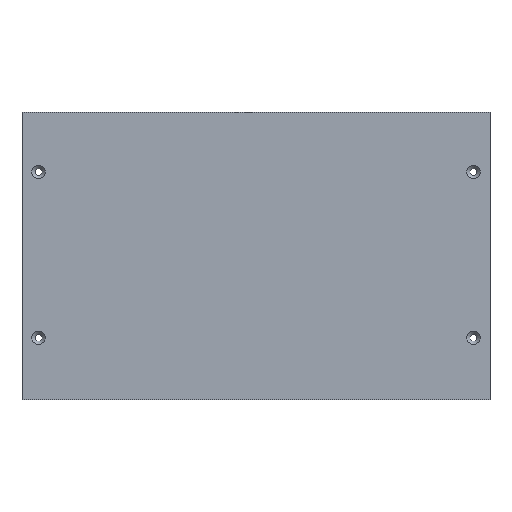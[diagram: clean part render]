
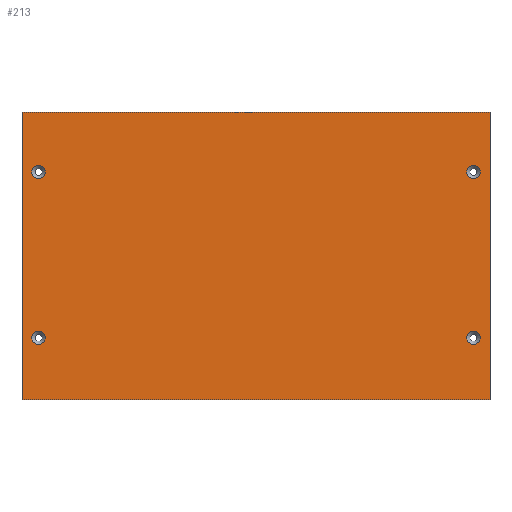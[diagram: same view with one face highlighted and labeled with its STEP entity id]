
A CAD part, top view. The second image highlights one B-rep face of the part: STEP entity #213.
In plain terms, the highlighted planar face has unit normal (0, 0, 1).
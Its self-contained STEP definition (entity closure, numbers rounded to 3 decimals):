
#24 = VERTEX_POINT('',#25);
#25 = CARTESIAN_POINT('',(0.,0.,3.));
#32 = PLANE('',#33);
#33 = AXIS2_PLACEMENT_3D('',#34,#35,#36);
#34 = CARTESIAN_POINT('',(0.,0.,0.));
#35 = DIRECTION('',(1.,0.,0.));
#36 = DIRECTION('',(0.,0.,1.));
#44 = PLANE('',#45);
#45 = AXIS2_PLACEMENT_3D('',#46,#47,#48);
#46 = CARTESIAN_POINT('',(0.,0.,0.));
#47 = DIRECTION('',(0.,1.,0.));
#48 = DIRECTION('',(0.,0.,1.));
#85 = VERTEX_POINT('',#86);
#86 = CARTESIAN_POINT('',(0.,139.,3.));
#100 = PLANE('',#101);
#101 = AXIS2_PLACEMENT_3D('',#102,#103,#104);
#102 = CARTESIAN_POINT('',(0.,139.,0.));
#103 = DIRECTION('',(0.,1.,0.));
#104 = DIRECTION('',(0.,0.,1.));
#112 = EDGE_CURVE('',#24,#85,#113,.T.);
#113 = SURFACE_CURVE('',#114,(#118,#125),.PCURVE_S1.);
#114 = LINE('',#115,#116);
#115 = CARTESIAN_POINT('',(0.,0.,3.));
#116 = VECTOR('',#117,1.);
#117 = DIRECTION('',(0.,1.,0.));
#118 = PCURVE('',#32,#119);
#119 = DEFINITIONAL_REPRESENTATION('',(#120),#124);
#120 = LINE('',#121,#122);
#121 = CARTESIAN_POINT('',(3.,0.));
#122 = VECTOR('',#123,1.);
#123 = DIRECTION('',(0.,-1.));
#124 = ( GEOMETRIC_REPRESENTATION_CONTEXT(2) 
PARAMETRIC_REPRESENTATION_CONTEXT() REPRESENTATION_CONTEXT('2D SPACE',''
  ) );
#125 = PCURVE('',#126,#131);
#126 = PLANE('',#127);
#127 = AXIS2_PLACEMENT_3D('',#128,#129,#130);
#128 = CARTESIAN_POINT('',(0.,0.,3.));
#129 = DIRECTION('',(0.,0.,1.));
#130 = DIRECTION('',(1.,0.,0.));
#131 = DEFINITIONAL_REPRESENTATION('',(#132),#136);
#132 = LINE('',#133,#134);
#133 = CARTESIAN_POINT('',(0.,0.));
#134 = VECTOR('',#135,1.);
#135 = DIRECTION('',(0.,1.));
#136 = ( GEOMETRIC_REPRESENTATION_CONTEXT(2) 
PARAMETRIC_REPRESENTATION_CONTEXT() REPRESENTATION_CONTEXT('2D SPACE',''
  ) );
#165 = EDGE_CURVE('',#24,#166,#168,.T.);
#166 = VERTEX_POINT('',#167);
#167 = CARTESIAN_POINT('',(226.,0.,3.));
#168 = SURFACE_CURVE('',#169,(#173,#180),.PCURVE_S1.);
#169 = LINE('',#170,#171);
#170 = CARTESIAN_POINT('',(0.,0.,3.));
#171 = VECTOR('',#172,1.);
#172 = DIRECTION('',(1.,0.,0.));
#173 = PCURVE('',#44,#174);
#174 = DEFINITIONAL_REPRESENTATION('',(#175),#179);
#175 = LINE('',#176,#177);
#176 = CARTESIAN_POINT('',(3.,0.));
#177 = VECTOR('',#178,1.);
#178 = DIRECTION('',(0.,1.));
#179 = ( GEOMETRIC_REPRESENTATION_CONTEXT(2) 
PARAMETRIC_REPRESENTATION_CONTEXT() REPRESENTATION_CONTEXT('2D SPACE',''
  ) );
#180 = PCURVE('',#126,#181);
#181 = DEFINITIONAL_REPRESENTATION('',(#182),#186);
#182 = LINE('',#183,#184);
#183 = CARTESIAN_POINT('',(0.,0.));
#184 = VECTOR('',#185,1.);
#185 = DIRECTION('',(1.,0.));
#186 = ( GEOMETRIC_REPRESENTATION_CONTEXT(2) 
PARAMETRIC_REPRESENTATION_CONTEXT() REPRESENTATION_CONTEXT('2D SPACE',''
  ) );
#202 = PLANE('',#203);
#203 = AXIS2_PLACEMENT_3D('',#204,#205,#206);
#204 = CARTESIAN_POINT('',(226.,0.,0.));
#205 = DIRECTION('',(1.,0.,0.));
#206 = DIRECTION('',(0.,0.,1.));
#213 = ADVANCED_FACE('',(#214,#262,#293,#324,#355),#126,.T.);
#214 = FACE_BOUND('',#215,.T.);
#215 = EDGE_LOOP('',(#216,#217,#218,#241));
#216 = ORIENTED_EDGE('',*,*,#112,.F.);
#217 = ORIENTED_EDGE('',*,*,#165,.T.);
#218 = ORIENTED_EDGE('',*,*,#219,.T.);
#219 = EDGE_CURVE('',#166,#220,#222,.T.);
#220 = VERTEX_POINT('',#221);
#221 = CARTESIAN_POINT('',(226.,139.,3.));
#222 = SURFACE_CURVE('',#223,(#227,#234),.PCURVE_S1.);
#223 = LINE('',#224,#225);
#224 = CARTESIAN_POINT('',(226.,0.,3.));
#225 = VECTOR('',#226,1.);
#226 = DIRECTION('',(0.,1.,0.));
#227 = PCURVE('',#126,#228);
#228 = DEFINITIONAL_REPRESENTATION('',(#229),#233);
#229 = LINE('',#230,#231);
#230 = CARTESIAN_POINT('',(226.,0.));
#231 = VECTOR('',#232,1.);
#232 = DIRECTION('',(0.,1.));
#233 = ( GEOMETRIC_REPRESENTATION_CONTEXT(2) 
PARAMETRIC_REPRESENTATION_CONTEXT() REPRESENTATION_CONTEXT('2D SPACE',''
  ) );
#234 = PCURVE('',#202,#235);
#235 = DEFINITIONAL_REPRESENTATION('',(#236),#240);
#236 = LINE('',#237,#238);
#237 = CARTESIAN_POINT('',(3.,0.));
#238 = VECTOR('',#239,1.);
#239 = DIRECTION('',(0.,-1.));
#240 = ( GEOMETRIC_REPRESENTATION_CONTEXT(2) 
PARAMETRIC_REPRESENTATION_CONTEXT() REPRESENTATION_CONTEXT('2D SPACE',''
  ) );
#241 = ORIENTED_EDGE('',*,*,#242,.F.);
#242 = EDGE_CURVE('',#85,#220,#243,.T.);
#243 = SURFACE_CURVE('',#244,(#248,#255),.PCURVE_S1.);
#244 = LINE('',#245,#246);
#245 = CARTESIAN_POINT('',(0.,139.,3.));
#246 = VECTOR('',#247,1.);
#247 = DIRECTION('',(1.,0.,0.));
#248 = PCURVE('',#126,#249);
#249 = DEFINITIONAL_REPRESENTATION('',(#250),#254);
#250 = LINE('',#251,#252);
#251 = CARTESIAN_POINT('',(0.,139.));
#252 = VECTOR('',#253,1.);
#253 = DIRECTION('',(1.,0.));
#254 = ( GEOMETRIC_REPRESENTATION_CONTEXT(2) 
PARAMETRIC_REPRESENTATION_CONTEXT() REPRESENTATION_CONTEXT('2D SPACE',''
  ) );
#255 = PCURVE('',#100,#256);
#256 = DEFINITIONAL_REPRESENTATION('',(#257),#261);
#257 = LINE('',#258,#259);
#258 = CARTESIAN_POINT('',(3.,0.));
#259 = VECTOR('',#260,1.);
#260 = DIRECTION('',(0.,1.));
#261 = ( GEOMETRIC_REPRESENTATION_CONTEXT(2) 
PARAMETRIC_REPRESENTATION_CONTEXT() REPRESENTATION_CONTEXT('2D SPACE',''
  ) );
#262 = FACE_BOUND('',#263,.T.);
#263 = EDGE_LOOP('',(#264));
#264 = ORIENTED_EDGE('',*,*,#265,.F.);
#265 = EDGE_CURVE('',#266,#266,#268,.T.);
#266 = VERTEX_POINT('',#267);
#267 = CARTESIAN_POINT('',(11.25,30.,3.));
#268 = SURFACE_CURVE('',#269,(#274,#281),.PCURVE_S1.);
#269 = CIRCLE('',#270,3.25);
#270 = AXIS2_PLACEMENT_3D('',#271,#272,#273);
#271 = CARTESIAN_POINT('',(8.,30.,3.));
#272 = DIRECTION('',(0.,0.,1.));
#273 = DIRECTION('',(1.,0.,-0.));
#274 = PCURVE('',#126,#275);
#275 = DEFINITIONAL_REPRESENTATION('',(#276),#280);
#276 = CIRCLE('',#277,3.25);
#277 = AXIS2_PLACEMENT_2D('',#278,#279);
#278 = CARTESIAN_POINT('',(8.,30.));
#279 = DIRECTION('',(1.,0.));
#280 = ( GEOMETRIC_REPRESENTATION_CONTEXT(2) 
PARAMETRIC_REPRESENTATION_CONTEXT() REPRESENTATION_CONTEXT('2D SPACE',''
  ) );
#281 = PCURVE('',#282,#287);
#282 = CONICAL_SURFACE('',#283,1.7,0.785);
#283 = AXIS2_PLACEMENT_3D('',#284,#285,#286);
#284 = CARTESIAN_POINT('',(8.,30.,1.45));
#285 = DIRECTION('',(0.,0.,1.));
#286 = DIRECTION('',(1.,0.,-0.));
#287 = DEFINITIONAL_REPRESENTATION('',(#288),#292);
#288 = LINE('',#289,#290);
#289 = CARTESIAN_POINT('',(0.,1.55));
#290 = VECTOR('',#291,1.);
#291 = DIRECTION('',(1.,0.));
#292 = ( GEOMETRIC_REPRESENTATION_CONTEXT(2) 
PARAMETRIC_REPRESENTATION_CONTEXT() REPRESENTATION_CONTEXT('2D SPACE',''
  ) );
#293 = FACE_BOUND('',#294,.T.);
#294 = EDGE_LOOP('',(#295));
#295 = ORIENTED_EDGE('',*,*,#296,.F.);
#296 = EDGE_CURVE('',#297,#297,#299,.T.);
#297 = VERTEX_POINT('',#298);
#298 = CARTESIAN_POINT('',(221.25,30.,3.));
#299 = SURFACE_CURVE('',#300,(#305,#312),.PCURVE_S1.);
#300 = CIRCLE('',#301,3.25);
#301 = AXIS2_PLACEMENT_3D('',#302,#303,#304);
#302 = CARTESIAN_POINT('',(218.,30.,3.));
#303 = DIRECTION('',(0.,0.,1.));
#304 = DIRECTION('',(1.,0.,-0.));
#305 = PCURVE('',#126,#306);
#306 = DEFINITIONAL_REPRESENTATION('',(#307),#311);
#307 = CIRCLE('',#308,3.25);
#308 = AXIS2_PLACEMENT_2D('',#309,#310);
#309 = CARTESIAN_POINT('',(218.,30.));
#310 = DIRECTION('',(1.,0.));
#311 = ( GEOMETRIC_REPRESENTATION_CONTEXT(2) 
PARAMETRIC_REPRESENTATION_CONTEXT() REPRESENTATION_CONTEXT('2D SPACE',''
  ) );
#312 = PCURVE('',#313,#318);
#313 = CONICAL_SURFACE('',#314,1.7,0.785);
#314 = AXIS2_PLACEMENT_3D('',#315,#316,#317);
#315 = CARTESIAN_POINT('',(218.,30.,1.45));
#316 = DIRECTION('',(0.,0.,1.));
#317 = DIRECTION('',(1.,0.,-0.));
#318 = DEFINITIONAL_REPRESENTATION('',(#319),#323);
#319 = LINE('',#320,#321);
#320 = CARTESIAN_POINT('',(0.,1.55));
#321 = VECTOR('',#322,1.);
#322 = DIRECTION('',(1.,0.));
#323 = ( GEOMETRIC_REPRESENTATION_CONTEXT(2) 
PARAMETRIC_REPRESENTATION_CONTEXT() REPRESENTATION_CONTEXT('2D SPACE',''
  ) );
#324 = FACE_BOUND('',#325,.T.);
#325 = EDGE_LOOP('',(#326));
#326 = ORIENTED_EDGE('',*,*,#327,.F.);
#327 = EDGE_CURVE('',#328,#328,#330,.T.);
#328 = VERTEX_POINT('',#329);
#329 = CARTESIAN_POINT('',(11.25,110.,3.));
#330 = SURFACE_CURVE('',#331,(#336,#343),.PCURVE_S1.);
#331 = CIRCLE('',#332,3.25);
#332 = AXIS2_PLACEMENT_3D('',#333,#334,#335);
#333 = CARTESIAN_POINT('',(8.,110.,3.));
#334 = DIRECTION('',(0.,0.,1.));
#335 = DIRECTION('',(1.,0.,-0.));
#336 = PCURVE('',#126,#337);
#337 = DEFINITIONAL_REPRESENTATION('',(#338),#342);
#338 = CIRCLE('',#339,3.25);
#339 = AXIS2_PLACEMENT_2D('',#340,#341);
#340 = CARTESIAN_POINT('',(8.,110.));
#341 = DIRECTION('',(1.,0.));
#342 = ( GEOMETRIC_REPRESENTATION_CONTEXT(2) 
PARAMETRIC_REPRESENTATION_CONTEXT() REPRESENTATION_CONTEXT('2D SPACE',''
  ) );
#343 = PCURVE('',#344,#349);
#344 = CONICAL_SURFACE('',#345,1.7,0.785);
#345 = AXIS2_PLACEMENT_3D('',#346,#347,#348);
#346 = CARTESIAN_POINT('',(8.,110.,1.45));
#347 = DIRECTION('',(0.,0.,1.));
#348 = DIRECTION('',(1.,0.,-0.));
#349 = DEFINITIONAL_REPRESENTATION('',(#350),#354);
#350 = LINE('',#351,#352);
#351 = CARTESIAN_POINT('',(0.,1.55));
#352 = VECTOR('',#353,1.);
#353 = DIRECTION('',(1.,0.));
#354 = ( GEOMETRIC_REPRESENTATION_CONTEXT(2) 
PARAMETRIC_REPRESENTATION_CONTEXT() REPRESENTATION_CONTEXT('2D SPACE',''
  ) );
#355 = FACE_BOUND('',#356,.T.);
#356 = EDGE_LOOP('',(#357));
#357 = ORIENTED_EDGE('',*,*,#358,.F.);
#358 = EDGE_CURVE('',#359,#359,#361,.T.);
#359 = VERTEX_POINT('',#360);
#360 = CARTESIAN_POINT('',(221.25,110.,3.));
#361 = SURFACE_CURVE('',#362,(#367,#374),.PCURVE_S1.);
#362 = CIRCLE('',#363,3.25);
#363 = AXIS2_PLACEMENT_3D('',#364,#365,#366);
#364 = CARTESIAN_POINT('',(218.,110.,3.));
#365 = DIRECTION('',(0.,0.,1.));
#366 = DIRECTION('',(1.,0.,-0.));
#367 = PCURVE('',#126,#368);
#368 = DEFINITIONAL_REPRESENTATION('',(#369),#373);
#369 = CIRCLE('',#370,3.25);
#370 = AXIS2_PLACEMENT_2D('',#371,#372);
#371 = CARTESIAN_POINT('',(218.,110.));
#372 = DIRECTION('',(1.,0.));
#373 = ( GEOMETRIC_REPRESENTATION_CONTEXT(2) 
PARAMETRIC_REPRESENTATION_CONTEXT() REPRESENTATION_CONTEXT('2D SPACE',''
  ) );
#374 = PCURVE('',#375,#380);
#375 = CONICAL_SURFACE('',#376,1.7,0.785);
#376 = AXIS2_PLACEMENT_3D('',#377,#378,#379);
#377 = CARTESIAN_POINT('',(218.,110.,1.45));
#378 = DIRECTION('',(0.,0.,1.));
#379 = DIRECTION('',(1.,0.,-0.));
#380 = DEFINITIONAL_REPRESENTATION('',(#381),#385);
#381 = LINE('',#382,#383);
#382 = CARTESIAN_POINT('',(0.,1.55));
#383 = VECTOR('',#384,1.);
#384 = DIRECTION('',(1.,0.));
#385 = ( GEOMETRIC_REPRESENTATION_CONTEXT(2) 
PARAMETRIC_REPRESENTATION_CONTEXT() REPRESENTATION_CONTEXT('2D SPACE',''
  ) );
